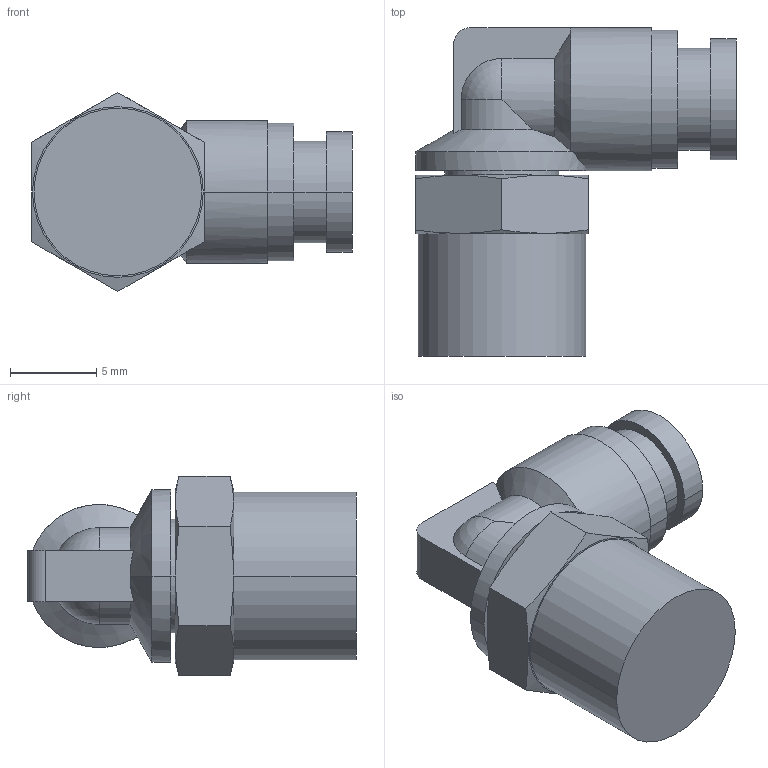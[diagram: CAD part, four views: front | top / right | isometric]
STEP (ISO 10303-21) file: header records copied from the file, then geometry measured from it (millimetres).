
FILE_DESCRIPTION( ( '' ), '1' );
FILE_NAME( 'G:/SMC狟婥/KQ2L23-01AS.stp', '2023-03-07T03:00:29', ( '' ), ( '' ), ' ', ' ', ' ' );
FILE_SCHEMA( ( 'CONFIG_CONTROL_DESIGN' ) );
Length unit declared in the file: millimetre
Products named in the file (1): 1
Bounding box: 18.6 x 19.05 x 11.55 mm (x, y, z)
Volume: 1495 mm3; surface area: 1158.5 mm2
Topology: 1 solids, 1 shells, 52 faces, 125 edges, 80 vertices
Faces by surface type: cylinder 21, plane 21, cone 8, sphere 2
Entity records: 1570 total; most frequent: CARTESIAN_POINT 352, DIRECTION 252, ORIENTED_EDGE 246, EDGE_CURVE 123, AXIS2_PLACEMENT_3D 106, VERTEX_POINT 80, EDGE_LOOP 59, ADVANCED_FACE 52
